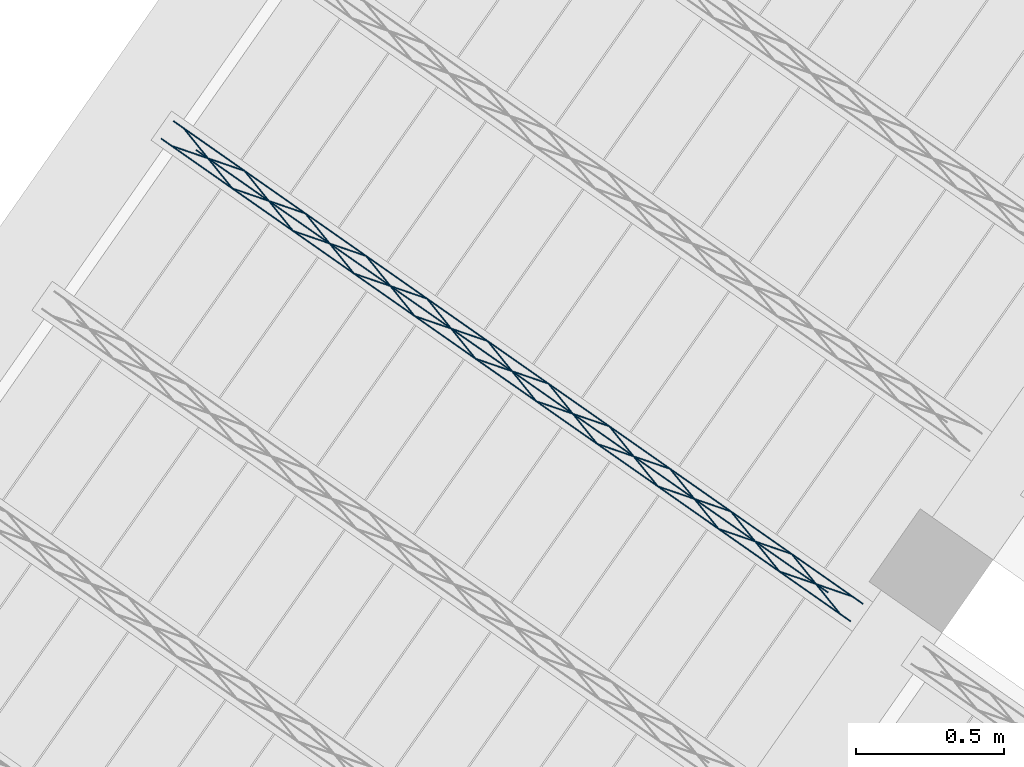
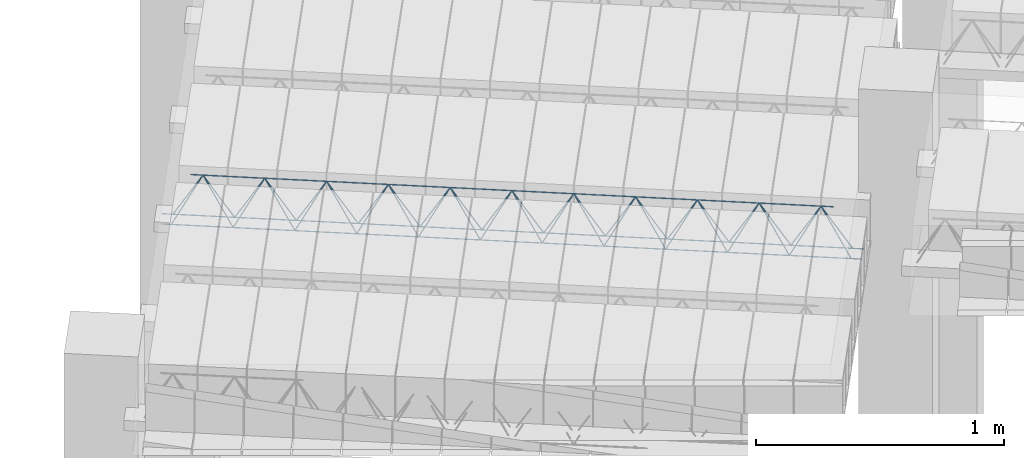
# One storey, part 37 of 80: 1 member.
"""IFC2X3 building model written with IfcOpenShell, lengths in metres."""

from ifc_helpers import new_model, entity, si_unit, converted_unit, derived_unit, direction, frame, origin, origin_2d_with_axis, place, context, subcontext, project, spatial, circle, extrude, type_object, element, save


model = new_model("IFC2X3")

# Units and contexts
model_context = context("Model", 3, precision=1e-05, world=origin(), true_north=direction((6.123031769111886e-17, 1.0)))
body_context = subcontext(model_context, "Body", "Model", "MODEL_VIEW")
ifc_project = project(units=[si_unit("LENGTHUNIT", "METRE"), si_unit("AREAUNIT", "SQUARE_METRE"), si_unit("VOLUMEUNIT", "CUBIC_METRE"), converted_unit("PLANEANGLEUNIT", "DEGREE", entity("IfcPlaneAngleMeasure", 0.017453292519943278), si_unit("PLANEANGLEUNIT", "RADIAN"), dimensions=[0, 0, 0, 0, 0, 0, 0]), si_unit("MASSUNIT", "GRAM", prefix="KILO"), derived_unit("MASSDENSITYUNIT", [(si_unit("MASSUNIT", "GRAM", prefix="KILO"), 1), (si_unit("LENGTHUNIT", "METRE"), -3)]), derived_unit("IONCONCENTRATIONUNIT", [(si_unit("MASSUNIT", "GRAM", prefix="KILO"), 1), (si_unit("LENGTHUNIT", "METRE"), -3)]), derived_unit("MOMENTOFINERTIAUNIT", [(si_unit("LENGTHUNIT", "METRE"), 4)]), si_unit("TIMEUNIT", "SECOND"), si_unit("FREQUENCYUNIT", "HERTZ"), si_unit("THERMODYNAMICTEMPERATUREUNIT", "DEGREE_CELSIUS"), derived_unit("THERMALTRANSMITTANCEUNIT", [(si_unit("MASSUNIT", "GRAM", prefix="KILO"), 1), (si_unit("THERMODYNAMICTEMPERATUREUNIT", "KELVIN"), -1), (si_unit("TIMEUNIT", "SECOND"), -3)]), derived_unit("THERMALCONDUCTANCEUNIT", [(si_unit("MASSUNIT", "GRAM", prefix="KILO"), 1), (si_unit("THERMODYNAMICTEMPERATUREUNIT", "KELVIN"), -1), (si_unit("TIMEUNIT", "SECOND"), -3), (si_unit("LENGTHUNIT", "METRE"), 1)]), derived_unit("VOLUMETRICFLOWRATEUNIT", [(si_unit("LENGTHUNIT", "METRE", prefix="DECI"), 3), (si_unit("TIMEUNIT", "SECOND"), -1)]), derived_unit("MASSFLOWRATEUNIT", [(si_unit("MASSUNIT", "GRAM", prefix="KILO"), 1), (si_unit("TIMEUNIT", "SECOND"), -1)]), derived_unit("ROTATIONALFREQUENCYUNIT", [(si_unit("TIMEUNIT", "SECOND"), -1)]), si_unit("ELECTRICCURRENTUNIT", "AMPERE"), si_unit("ELECTRICVOLTAGEUNIT", "VOLT"), si_unit("POWERUNIT", "WATT"), si_unit("FORCEUNIT", "NEWTON", prefix="KILO"), si_unit("ILLUMINANCEUNIT", "LUX"), si_unit("LUMINOUSFLUXUNIT", "LUMEN"), si_unit("LUMINOUSINTENSITYUNIT", "CANDELA"), si_unit("ENERGYUNIT", "JOULE"), derived_unit("USERDEFINED", [(si_unit("MASSUNIT", "GRAM", prefix="KILO"), -1), (si_unit("LENGTHUNIT", "METRE"), -2), (si_unit("TIMEUNIT", "SECOND"), 3), (si_unit("LUMINOUSFLUXUNIT", "LUMEN"), 1)]), derived_unit("USERDEFINED", [(si_unit("MASSUNIT", "GRAM", prefix="KILO"), 1), (si_unit("TIMEUNIT", "SECOND"), -3), (si_unit("LENGTHUNIT", "METRE"), 3), (si_unit("ELECTRICCURRENTUNIT", "AMPERE"), -2)]), derived_unit("SOUNDPOWERUNIT", [(si_unit("MASSUNIT", "GRAM", prefix="KILO"), 1), (si_unit("TIMEUNIT", "SECOND"), -3), (si_unit("LENGTHUNIT", "METRE"), 2)]), derived_unit("SOUNDPRESSUREUNIT", [(si_unit("MASSUNIT", "GRAM", prefix="KILO"), 1), (si_unit("LENGTHUNIT", "METRE"), -1), (si_unit("TIMEUNIT", "SECOND"), -2)]), derived_unit("LINEARVELOCITYUNIT", [(si_unit("LENGTHUNIT", "METRE"), 1), (si_unit("TIMEUNIT", "SECOND"), -1)]), si_unit("PRESSUREUNIT", "PASCAL"), derived_unit("USERDEFINED", [(si_unit("MASSUNIT", "GRAM", prefix="KILO"), 1), (si_unit("LENGTHUNIT", "METRE"), -2), (si_unit("TIMEUNIT", "SECOND"), -2)]), derived_unit("LINEARFORCEUNIT", [(si_unit("MASSUNIT", "GRAM", prefix="KILO"), 1), (si_unit("TIMEUNIT", "SECOND"), -2)]), derived_unit("PLANARFORCEUNIT", [(si_unit("MASSUNIT", "GRAM", prefix="KILO"), 1), (si_unit("LENGTHUNIT", "METRE"), -1), (si_unit("TIMEUNIT", "SECOND"), -2)]), derived_unit("SPECIFICHEATCAPACITYUNIT", [(si_unit("THERMODYNAMICTEMPERATUREUNIT", "KELVIN"), -1), (si_unit("LENGTHUNIT", "METRE"), 2), (si_unit("TIMEUNIT", "SECOND"), -2)]), derived_unit("HEATFLUXDENSITYUNIT", [(si_unit("MASSUNIT", "GRAM", prefix="KILO"), 1), (si_unit("TIMEUNIT", "SECOND"), -3)]), derived_unit("HEATINGVALUEUNIT", [(si_unit("LENGTHUNIT", "METRE"), 2), (si_unit("TIMEUNIT", "SECOND"), -2)]), derived_unit("VAPORPERMEABILITYUNIT", [(si_unit("LENGTHUNIT", "METRE"), -1), (si_unit("TIMEUNIT", "SECOND"), 1)]), derived_unit("DYNAMICVISCOSITYUNIT", [(si_unit("MASSUNIT", "GRAM", prefix="KILO"), 1), (si_unit("TIMEUNIT", "SECOND"), -1), (si_unit("LENGTHUNIT", "METRE"), -1)]), derived_unit("THERMALEXPANSIONCOEFFICIENTUNIT", [(si_unit("THERMODYNAMICTEMPERATUREUNIT", "KELVIN"), -1)]), derived_unit("MODULUSOFELASTICITYUNIT", [(si_unit("MASSUNIT", "GRAM", prefix="KILO"), 1), (si_unit("LENGTHUNIT", "METRE"), -1), (si_unit("TIMEUNIT", "SECOND"), -2)]), derived_unit("ISOTHERMALMOISTURECAPACITYUNIT", [(si_unit("MASSUNIT", "GRAM", prefix="KILO"), -1), (si_unit("LENGTHUNIT", "METRE"), 3)]), derived_unit("MOISTUREDIFFUSIVITYUNIT", [(si_unit("TIMEUNIT", "SECOND"), -1), (si_unit("LENGTHUNIT", "METRE"), 2)]), derived_unit("MASSPERLENGTHUNIT", [(si_unit("MASSUNIT", "GRAM", prefix="KILO"), 1), (si_unit("LENGTHUNIT", "METRE"), -1)]), derived_unit("THERMALRESISTANCEUNIT", [(si_unit("MASSUNIT", "GRAM", prefix="KILO"), -1), (si_unit("TIMEUNIT", "SECOND"), 3), (si_unit("THERMODYNAMICTEMPERATUREUNIT", "KELVIN"), 1)]), derived_unit("ACCELERATIONUNIT", [(si_unit("LENGTHUNIT", "METRE"), 1), (si_unit("TIMEUNIT", "SECOND"), -2)]), derived_unit("ANGULARVELOCITYUNIT", [(si_unit("TIMEUNIT", "SECOND"), -1), (si_unit("PLANEANGLEUNIT", "RADIAN"), 1)]), derived_unit("LINEARSTIFFNESSUNIT", [(si_unit("MASSUNIT", "GRAM", prefix="KILO"), 1), (si_unit("TIMEUNIT", "SECOND"), -2)]), derived_unit("WARPINGCONSTANTUNIT", [(si_unit("LENGTHUNIT", "METRE"), 6)]), derived_unit("LINEARMOMENTUNIT", [(si_unit("MASSUNIT", "GRAM", prefix="KILO"), 1), (si_unit("LENGTHUNIT", "METRE"), 1), (si_unit("TIMEUNIT", "SECOND"), -2)]), derived_unit("TORQUEUNIT", [(si_unit("MASSUNIT", "GRAM", prefix="KILO"), 1), (si_unit("LENGTHUNIT", "METRE"), 2), (si_unit("TIMEUNIT", "SECOND"), -2)])], contexts=[model_context])

# Site, building, storey
site_placement = place(None, origin())
site = spatial("IfcSite", under=ifc_project, at=site_placement, Name="Default", CompositionType="ELEMENT")
building_placement = place(site_placement, origin())
building = spatial("IfcBuilding", under=site, at=building_placement, CompositionType="ELEMENT")
storey_placement = place(building_placement, frame((0.0, 0.0, 95.94)))
storey = spatial("IfcBuildingStorey", under=building, at=storey_placement, Name="PB", CompositionType="ELEMENT", Elevation=95.94)

# Member
member_type = type_object("IfcMemberType", Name="Celosía (Vigueta 12 - Paño 2)", PredefinedType="NOTDEFINED")
member_placement = place(storey_placement, origin())
element("IfcMember", 1, at=member_placement, inside=storey, type_object=member_type, Name="Celosía (Vigueta 12 - Paño 2)", context=body_context, shape_type="SweptSolid", body=[
    extrude(circle(Radius=0.0025, at=origin_2d_with_axis()), frame((3.235604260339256, 8.982967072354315, 2.8449999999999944), z_axis=(0.8191520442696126, -0.5735764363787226, 0.0), x_axis=(-0.5735764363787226, -0.8191520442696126, 0.0)), (0.0, 0.0, 1.0), 2.836391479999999),
    extrude(circle(Radius=0.0025, at=origin_2d_with_axis()), frame((3.3530732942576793, 8.94466225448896, 3.069999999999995), z_axis=(0.8191520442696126, -0.5735764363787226, 0.0), x_axis=(-0.5735764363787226, -0.8191520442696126, 0.0)), (0.0, 0.0, 1.0), 2.599999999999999),
    extrude(circle(Radius=0.0025, at=origin_2d_with_axis()), frame((5.523656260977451, 7.380855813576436, 2.8449999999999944), z_axis=(-0.3145304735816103, 0.389334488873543, 0.8657304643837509), x_axis=(-0.7778747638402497, -0.6284193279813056, 0.0)), (0.0, 0.0, 1.0), 0.2598961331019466),
    extrude(circle(Radius=0.0025, at=origin_2d_with_axis()), frame((5.3188682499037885, 7.5242499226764, 2.8449999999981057), z_axis=(0.47343050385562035, -0.1624017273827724, 0.8657304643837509), x_axis=(-0.3244721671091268, -0.9458952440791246, 0.0)), (0.0, 0.0, 1.0), 0.25989613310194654),
    extrude(circle(Radius=0.0025, at=origin_2d_with_axis()), frame((5.318868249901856, 7.5242499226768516, 2.8449999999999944), z_axis=(-0.3145304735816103, 0.389334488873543, 0.8657304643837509), x_axis=(-0.7778747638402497, -0.6284193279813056, 0.0)), (0.0, 0.0, 1.0), 0.2598961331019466),
    extrude(circle(Radius=0.0025, at=origin_2d_with_axis()), frame((5.114080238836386, 7.667644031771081, 2.8449999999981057), z_axis=(0.47343050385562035, -0.1624017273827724, 0.8657304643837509), x_axis=(-0.3244721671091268, -0.9458952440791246, 0.0)), (0.0, 0.0, 1.0), 0.25989613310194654),
    extrude(circle(Radius=0.0025, at=origin_2d_with_axis()), frame((5.114080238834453, 7.667644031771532, 2.8449999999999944), z_axis=(-0.3145304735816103, 0.389334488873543, 0.8657304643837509), x_axis=(-0.7778747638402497, -0.6284193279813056, 0.0)), (0.0, 0.0, 1.0), 0.2598961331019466),
    extrude(circle(Radius=0.0025, at=origin_2d_with_axis()), frame((4.909292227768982, 7.8110381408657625, 2.8449999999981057), z_axis=(0.47343050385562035, -0.1624017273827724, 0.8657304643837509), x_axis=(-0.3244721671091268, -0.9458952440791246, 0.0)), (0.0, 0.0, 1.0), 0.25989613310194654),
    extrude(circle(Radius=0.0025, at=origin_2d_with_axis()), frame((4.90929222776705, 7.811038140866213, 2.8449999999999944), z_axis=(-0.3145304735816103, 0.389334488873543, 0.8657304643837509), x_axis=(-0.7778747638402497, -0.6284193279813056, 0.0)), (0.0, 0.0, 1.0), 0.2598961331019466),
    extrude(circle(Radius=0.0025, at=origin_2d_with_axis()), frame((4.704504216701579, 7.954432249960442, 2.8449999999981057), z_axis=(0.47343050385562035, -0.1624017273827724, 0.8657304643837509), x_axis=(-0.3244721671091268, -0.9458952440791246, 0.0)), (0.0, 0.0, 1.0), 0.25989613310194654),
    extrude(circle(Radius=0.0025, at=origin_2d_with_axis()), frame((4.704504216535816, 7.954432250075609, 2.8449999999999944), z_axis=(-0.3145304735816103, 0.389334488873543, 0.8657304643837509), x_axis=(-0.7778747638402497, -0.6284193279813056, 0.0)), (0.0, 0.0, 1.0), 0.2598961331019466),
    extrude(circle(Radius=0.0025, at=origin_2d_with_axis()), frame((4.499716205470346, 8.097826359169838, 2.8449999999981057), z_axis=(0.47343050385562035, -0.1624017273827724, 0.8657304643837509), x_axis=(-0.3244721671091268, -0.9458952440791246, 0.0)), (0.0, 0.0, 1.0), 0.25989613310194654),
    extrude(circle(Radius=0.0025, at=origin_2d_with_axis()), frame((4.499716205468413, 8.09782635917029, 2.8449999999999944), z_axis=(-0.3145304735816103, 0.389334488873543, 0.8657304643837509), x_axis=(-0.7778747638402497, -0.6284193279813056, 0.0)), (0.0, 0.0, 1.0), 0.2598961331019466),
    extrude(circle(Radius=0.0025, at=origin_2d_with_axis()), frame((4.294928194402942, 8.241220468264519, 2.8449999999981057), z_axis=(0.47343050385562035, -0.1624017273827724, 0.8657304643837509), x_axis=(-0.3244721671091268, -0.9458952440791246, 0.0)), (0.0, 0.0, 1.0), 0.25989613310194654),
    extrude(circle(Radius=0.0025, at=origin_2d_with_axis()), frame((4.2949281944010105, 8.24122046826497, 2.8449999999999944), z_axis=(-0.3145304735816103, 0.389334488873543, 0.8657304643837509), x_axis=(-0.7778747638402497, -0.6284193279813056, 0.0)), (0.0, 0.0, 1.0), 0.2598961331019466),
    extrude(circle(Radius=0.0025, at=origin_2d_with_axis()), frame((4.0901401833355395, 8.3846145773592, 2.8449999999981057), z_axis=(0.47343050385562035, -0.1624017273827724, 0.8657304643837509), x_axis=(-0.3244721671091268, -0.9458952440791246, 0.0)), (0.0, 0.0, 1.0), 0.25989613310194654),
    extrude(circle(Radius=0.0025, at=origin_2d_with_axis()), frame((4.090140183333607, 8.38461457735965, 2.8449999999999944), z_axis=(-0.3145304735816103, 0.389334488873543, 0.8657304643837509), x_axis=(-0.7778747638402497, -0.6284193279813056, 0.0)), (0.0, 0.0, 1.0), 0.2598961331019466),
    extrude(circle(Radius=0.0025, at=origin_2d_with_axis()), frame((3.8853521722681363, 8.52800868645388, 2.8449999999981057), z_axis=(0.47343050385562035, -0.1624017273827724, 0.8657304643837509), x_axis=(-0.3244721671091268, -0.9458952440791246, 0.0)), (0.0, 0.0, 1.0), 0.25989613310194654),
    extrude(circle(Radius=0.0025, at=origin_2d_with_axis()), frame((3.885352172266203, 8.528008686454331, 2.8449999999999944), z_axis=(-0.3145304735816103, 0.389334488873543, 0.8657304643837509), x_axis=(-0.7778747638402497, -0.6284193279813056, 0.0)), (0.0, 0.0, 1.0), 0.2598961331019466),
    extrude(circle(Radius=0.0025, at=origin_2d_with_axis()), frame((3.6805641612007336, 8.67140279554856, 2.8449999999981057), z_axis=(0.47343050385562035, -0.1624017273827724, 0.8657304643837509), x_axis=(-0.3244721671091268, -0.9458952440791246, 0.0)), (0.0, 0.0, 1.0), 0.25989613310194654),
    extrude(circle(Radius=0.0025, at=origin_2d_with_axis()), frame((3.6805641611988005, 8.671402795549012, 2.8449999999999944), z_axis=(-0.3145304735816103, 0.389334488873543, 0.8657304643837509), x_axis=(-0.7778747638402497, -0.6284193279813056, 0.0)), (0.0, 0.0, 1.0), 0.2598961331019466),
    extrude(circle(Radius=0.0025, at=origin_2d_with_axis()), frame((3.47577615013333, 8.814796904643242, 2.8449999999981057), z_axis=(0.47343050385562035, -0.1624017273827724, 0.8657304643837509), x_axis=(-0.3244721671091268, -0.9458952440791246, 0.0)), (0.0, 0.0, 1.0), 0.25989613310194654),
    extrude(circle(Radius=0.0025, at=origin_2d_with_axis()), frame((3.4757761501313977, 8.814796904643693, 2.8449999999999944), z_axis=(-0.3145304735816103, 0.389334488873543, 0.8657304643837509), x_axis=(-0.7778747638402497, -0.6284193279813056, 0.0)), (0.0, 0.0, 1.0), 0.2598961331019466),
    extrude(circle(Radius=0.0025, at=origin_2d_with_axis()), frame((3.270988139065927, 8.958191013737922, 2.8449999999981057), z_axis=(0.47343050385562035, -0.1624017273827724, 0.8657304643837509), x_axis=(-0.3244721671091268, -0.9458952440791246, 0.0)), (0.0, 0.0, 1.0), 0.25989613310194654),
    extrude(circle(Radius=0.0025, at=origin_2d_with_axis()), frame((5.600337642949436, 7.4150587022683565, 2.8449999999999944), z_axis=(-0.8191520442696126, 0.5735764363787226, 0.0), x_axis=(-0.5735764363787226, -0.8191520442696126, 0.0)), (0.0, 0.0, 1.0), 2.8363914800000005),
    extrude(circle(Radius=0.0025, at=origin_2d_with_axis()), frame((5.564953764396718, 7.439834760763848, 2.8449999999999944), z_axis=(-0.47343050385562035, 0.1624017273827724, 0.8657304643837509), x_axis=(-0.3244721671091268, -0.9458952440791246, 0.0)), (0.0, 0.0, 1.0), 0.25989613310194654),
    extrude(circle(Radius=0.0025, at=origin_2d_with_axis()), frame((5.360165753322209, 7.5832288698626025, 2.8449999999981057), z_axis=(0.3145304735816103, -0.389334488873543, 0.8657304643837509), x_axis=(-0.7778747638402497, -0.6284193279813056, 0.0)), (0.0, 0.0, 1.0), 0.2598961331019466),
    extrude(circle(Radius=0.0025, at=origin_2d_with_axis()), frame((5.360165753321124, 7.583228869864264, 2.8449999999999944), z_axis=(-0.47343050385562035, 0.1624017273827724, 0.8657304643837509), x_axis=(-0.3244721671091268, -0.9458952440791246, 0.0)), (0.0, 0.0, 1.0), 0.25989613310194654),
    extrude(circle(Radius=0.0025, at=origin_2d_with_axis()), frame((5.155377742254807, 7.726622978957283, 2.8449999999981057), z_axis=(0.3145304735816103, -0.389334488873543, 0.8657304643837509), x_axis=(-0.7778747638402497, -0.6284193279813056, 0.0)), (0.0, 0.0, 1.0), 0.2598961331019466),
    extrude(circle(Radius=0.0025, at=origin_2d_with_axis()), frame((5.15537774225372, 7.726622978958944, 2.8449999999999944), z_axis=(-0.47343050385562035, 0.1624017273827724, 0.8657304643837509), x_axis=(-0.3244721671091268, -0.9458952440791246, 0.0)), (0.0, 0.0, 1.0), 0.25989613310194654),
    extrude(circle(Radius=0.0025, at=origin_2d_with_axis()), frame((4.950589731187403, 7.870017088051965, 2.8449999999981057), z_axis=(0.3145304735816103, -0.389334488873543, 0.8657304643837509), x_axis=(-0.7778747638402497, -0.6284193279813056, 0.0)), (0.0, 0.0, 1.0), 0.2598961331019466),
    extrude(circle(Radius=0.0025, at=origin_2d_with_axis()), frame((4.950589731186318, 7.870017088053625, 2.8449999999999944), z_axis=(-0.47343050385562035, 0.1624017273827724, 0.8657304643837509), x_axis=(-0.3244721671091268, -0.9458952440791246, 0.0)), (0.0, 0.0, 1.0), 0.25989613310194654),
    extrude(circle(Radius=0.0025, at=origin_2d_with_axis()), frame((4.74580172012, 8.013411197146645, 2.8449999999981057), z_axis=(0.3145304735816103, -0.389334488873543, 0.8657304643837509), x_axis=(-0.7778747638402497, -0.6284193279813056, 0.0)), (0.0, 0.0, 1.0), 0.2598961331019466),
    extrude(circle(Radius=0.0025, at=origin_2d_with_axis()), frame((4.745801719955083, 8.01341119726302, 2.8449999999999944), z_axis=(-0.47343050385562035, 0.1624017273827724, 0.8657304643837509), x_axis=(-0.3244721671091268, -0.9458952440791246, 0.0)), (0.0, 0.0, 1.0), 0.25989613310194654),
    extrude(circle(Radius=0.0025, at=origin_2d_with_axis()), frame((4.541013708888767, 8.156805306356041, 2.8449999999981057), z_axis=(0.3145304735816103, -0.389334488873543, 0.8657304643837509), x_axis=(-0.7778747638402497, -0.6284193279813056, 0.0)), (0.0, 0.0, 1.0), 0.2598961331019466),
    extrude(circle(Radius=0.0025, at=origin_2d_with_axis()), frame((4.5410137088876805, 8.156805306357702, 2.8449999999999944), z_axis=(-0.47343050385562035, 0.1624017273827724, 0.8657304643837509), x_axis=(-0.3244721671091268, -0.9458952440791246, 0.0)), (0.0, 0.0, 1.0), 0.25989613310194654),
    extrude(circle(Radius=0.0025, at=origin_2d_with_axis()), frame((4.336225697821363, 8.300199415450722, 2.8449999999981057), z_axis=(0.3145304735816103, -0.389334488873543, 0.8657304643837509), x_axis=(-0.7778747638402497, -0.6284193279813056, 0.0)), (0.0, 0.0, 1.0), 0.2598961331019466),
    extrude(circle(Radius=0.0025, at=origin_2d_with_axis()), frame((4.336225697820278, 8.300199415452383, 2.8449999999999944), z_axis=(-0.47343050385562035, 0.1624017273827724, 0.8657304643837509), x_axis=(-0.3244721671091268, -0.9458952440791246, 0.0)), (0.0, 0.0, 1.0), 0.25989613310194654),
    extrude(circle(Radius=0.0025, at=origin_2d_with_axis()), frame((4.13143768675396, 8.443593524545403, 2.8449999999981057), z_axis=(0.3145304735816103, -0.389334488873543, 0.8657304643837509), x_axis=(-0.7778747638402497, -0.6284193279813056, 0.0)), (0.0, 0.0, 1.0), 0.2598961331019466),
    extrude(circle(Radius=0.0025, at=origin_2d_with_axis()), frame((4.131437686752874, 8.443593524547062, 2.8449999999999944), z_axis=(-0.47343050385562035, 0.1624017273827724, 0.8657304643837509), x_axis=(-0.3244721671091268, -0.9458952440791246, 0.0)), (0.0, 0.0, 1.0), 0.25989613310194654),
    extrude(circle(Radius=0.0025, at=origin_2d_with_axis()), frame((3.926649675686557, 8.586987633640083, 2.8449999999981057), z_axis=(0.3145304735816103, -0.389334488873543, 0.8657304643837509), x_axis=(-0.7778747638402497, -0.6284193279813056, 0.0)), (0.0, 0.0, 1.0), 0.2598961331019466),
    extrude(circle(Radius=0.0025, at=origin_2d_with_axis()), frame((3.926649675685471, 8.586987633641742, 2.8449999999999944), z_axis=(-0.47343050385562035, 0.1624017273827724, 0.8657304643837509), x_axis=(-0.3244721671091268, -0.9458952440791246, 0.0)), (0.0, 0.0, 1.0), 0.25989613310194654),
    extrude(circle(Radius=0.0025, at=origin_2d_with_axis()), frame((3.7218616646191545, 8.730381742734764, 2.8449999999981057), z_axis=(0.3145304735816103, -0.389334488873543, 0.8657304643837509), x_axis=(-0.7778747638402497, -0.6284193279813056, 0.0)), (0.0, 0.0, 1.0), 0.2598961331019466),
    extrude(circle(Radius=0.0025, at=origin_2d_with_axis()), frame((3.721861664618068, 8.730381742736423, 2.8449999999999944), z_axis=(-0.47343050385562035, 0.1624017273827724, 0.8657304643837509), x_axis=(-0.3244721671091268, -0.9458952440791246, 0.0)), (0.0, 0.0, 1.0), 0.25989613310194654),
    extrude(circle(Radius=0.0025, at=origin_2d_with_axis()), frame((3.517073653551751, 8.873775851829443, 2.8449999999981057), z_axis=(0.3145304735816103, -0.389334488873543, 0.8657304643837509), x_axis=(-0.7778747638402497, -0.6284193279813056, 0.0)), (0.0, 0.0, 1.0), 0.2598961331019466),
    extrude(circle(Radius=0.0025, at=origin_2d_with_axis()), frame((3.5170736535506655, 8.873775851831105, 2.8449999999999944), z_axis=(-0.47343050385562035, 0.1624017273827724, 0.8657304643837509), x_axis=(-0.3244721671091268, -0.9458952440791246, 0.0)), (0.0, 0.0, 1.0), 0.25989613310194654),
    extrude(circle(Radius=0.0025, at=origin_2d_with_axis()), frame((3.3122856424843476, 9.017169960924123, 2.8449999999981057), z_axis=(0.3145304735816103, -0.389334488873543, 0.8657304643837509), x_axis=(-0.7778747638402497, -0.6284193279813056, 0.0)), (0.0, 0.0, 1.0), 0.2598961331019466),
])

save(model, "model.ifc")
